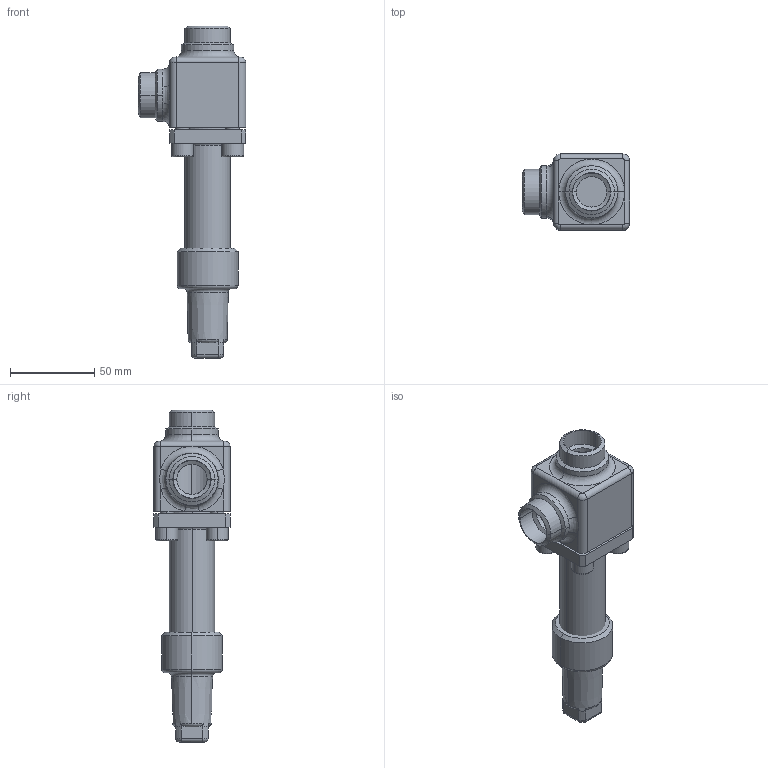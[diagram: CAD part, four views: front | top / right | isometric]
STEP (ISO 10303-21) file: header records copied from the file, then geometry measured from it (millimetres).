
FILE_DESCRIPTION (( 'STEP AP214' ), '1' );
FILE_NAME ('RVA99400-DN020_R1_PS40.STEP', '2006-05-02T09:45:36', ( 'Herr Grams' ), ( 'AWP GmbH' ), 'SwSTEP 2.0', 'SolidWorks 2002296', '' );
FILE_SCHEMA (( 'AUTOMOTIVE_DESIGN' ));
Length unit declared in the file: millimetre
Products named in the file (6): RVA99400-DN020_R1_PS40; Kappe96300E10_DN6-20_Standard; RVA99300E11_Deck+Schr-DN20_Standard; Deckel99300E11-DN20_PS40_Standard; Zylinderschraube-DIN912_M 8x 20; Gehäuse96400E11-DN20_PS40_R1_Standard
Assembly tree (8 placements, depth 3):
  RVA99400-DN020_R1_PS40
    Gehäuse96400E11-DN20_PS40_R1_Standard
    Kappe96300E10_DN6-20_Standard
    RVA99300E11_Deck+Schr-DN20_Standard
      Deckel99300E11-DN20_PS40_Standard
      Zylinderschraube-DIN912_M 8x 20  x4
Bounding box: 63.5 x 45 x 196.5 mm (x, y, z)
Volume: 165664.4 mm3; surface area: 46353.5 mm2
Topology: 7 solids, 7 shells, 227 faces, 507 edges, 310 vertices
Faces by surface type: cylinder 82, plane 80, torus 32, cone 30, bspline 3
Entity records: 8166 total; most frequent: CARTESIAN_POINT 3540, DIRECTION 916, ORIENTED_EDGE 786, EDGE_CURVE 393, AXIS2_PLACEMENT_3D 379, VERTEX_POINT 238, CIRCLE 197, EDGE_LOOP 195
